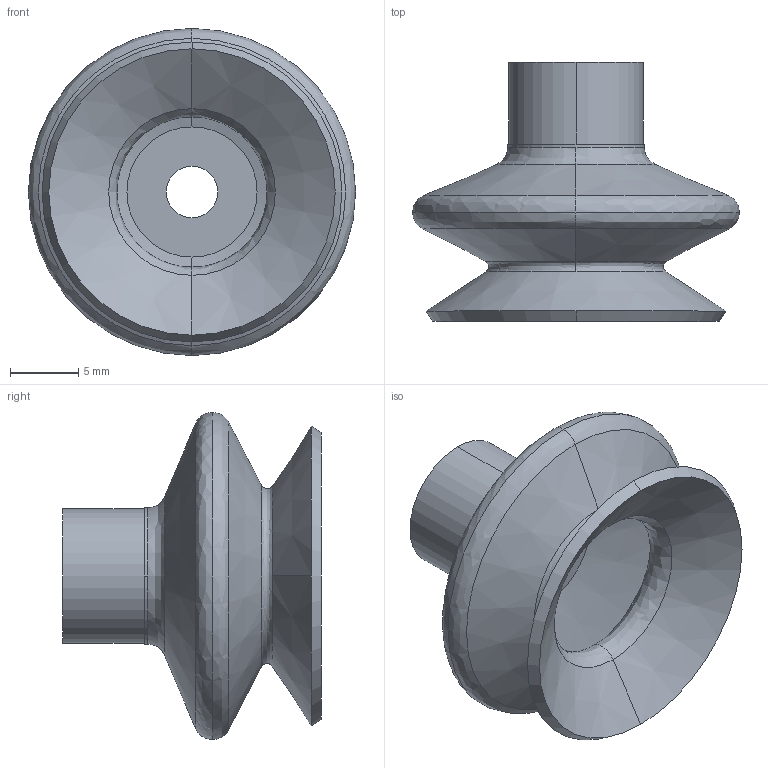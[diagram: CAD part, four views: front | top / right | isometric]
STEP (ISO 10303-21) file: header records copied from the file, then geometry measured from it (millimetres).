
FILE_DESCRIPTION (( 'STEP AP214' ), '1' );
FILE_NAME ('VS2-SA22.STEP', '2019-11-13T08:09:40', ( '微软用户' ), ( '微软中国' ), 'SwSTEP 2.0', 'SolidWorks 2016', '' );
FILE_SCHEMA (( 'AUTOMOTIVE_DESIGN' ));
Length unit declared in the file: millimetre
Products named in the file (1): VS2-SA22
Bounding box: 24 x 19 x 24 mm (x, y, z)
Volume: 1719.4 mm3; surface area: 2732.1 mm2
Topology: 1 solids, 1 shells, 37 faces, 80 edges, 46 vertices
Faces by surface type: cone 14, bspline 14, cylinder 6, plane 3
Entity records: 1196 total; most frequent: CARTESIAN_POINT 416, ORIENTED_EDGE 160, DIRECTION 160, EDGE_CURVE 80, AXIS2_PLACEMENT_3D 70, CIRCLE 46, VERTEX_POINT 46, EDGE_LOOP 40
